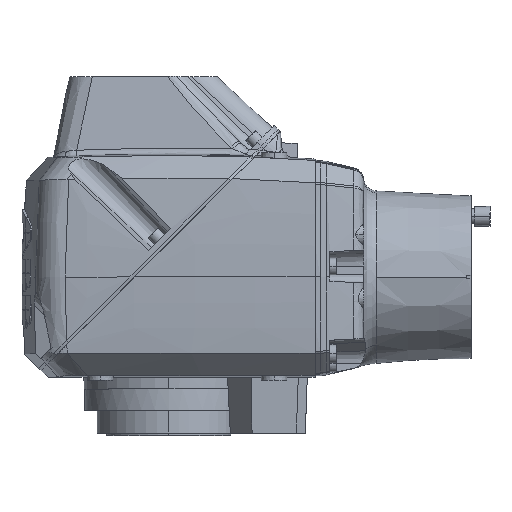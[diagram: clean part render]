
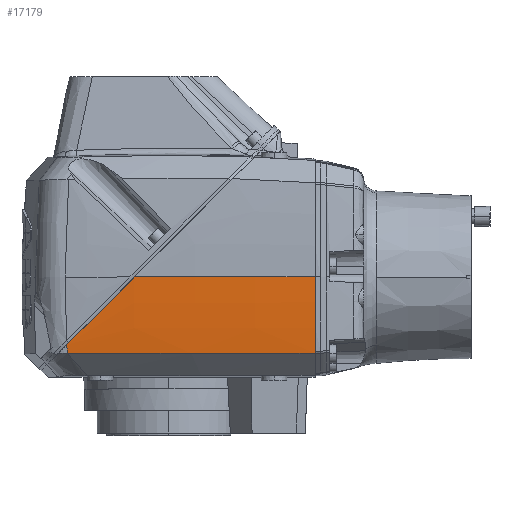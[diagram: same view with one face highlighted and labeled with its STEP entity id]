
A CAD part, top view. The second image highlights one B-rep face of the part: STEP entity #17179.
In plain terms, the highlighted toroidal (fillet/blend) face has major radius 2997.89 mm and minor radius 4000 mm.
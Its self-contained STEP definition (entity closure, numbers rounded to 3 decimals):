
#26 = CARTESIAN_POINT ( 'NONE',  ( 53.313, -64.16, 1374.702 ) ) ;
#259 = CARTESIAN_POINT ( 'NONE',  ( 85.423, -32.05, 1377.787 ) ) ;
#328 = DIRECTION ( 'NONE',  ( 0., 1., 0. ) ) ;
#898 = EDGE_CURVE ( 'NONE', #44550, #30493, #54128, .T. ) ;
#4884 = CARTESIAN_POINT ( 'NONE',  ( 53.606, -69.674, 1374.35 ) ) ;
#4905 = CARTESIAN_POINT ( 'NONE',  ( 85.376, -32.097, 1377.783 ) ) ;
#5264 = CARTESIAN_POINT ( 'NONE',  ( 260., 0., 380. ) ) ;
#5459 = DIRECTION ( 'NONE',  ( 0., 0., -1. ) ) ;
#5556 = CARTESIAN_POINT ( 'NONE',  ( 289., -72.255, 1379.399 ) ) ;
#6028 = AXIS2_PLACEMENT_3D ( 'NONE', #5264, #54973, #5459 ) ;
#9296 = CARTESIAN_POINT ( 'NONE',  ( 97.92, -19.553, 1378.641 ) ) ;
#9510 = CARTESIAN_POINT ( 'NONE',  ( 85.363, -32.11, 1377.782 ) ) ;
#9692 = CARTESIAN_POINT ( 'NONE',  ( 289., -72.255, 1379.399 ) ) ;
#10382 = ORIENTED_EDGE ( 'NONE', *, *, #25588, .F. ) ;
#10504 = CARTESIAN_POINT ( 'NONE',  ( 53.847, -72.43, 1374.162 ) ) ;
#13929 = CARTESIAN_POINT ( 'NONE',  ( 53.455, -66.917, 1374.532 ) ) ;
#13955 = CARTESIAN_POINT ( 'NONE',  ( 91.502, -25.971, 1378.226 ) ) ;
#14010 = CARTESIAN_POINT ( 'NONE',  ( 117.473, 0., 1379.573 ) ) ;
#14153 = CARTESIAN_POINT ( 'NONE',  ( 63.307, -54.166, 1375.865 ) ) ;
#14332 = CARTESIAN_POINT ( 'NONE',  ( 210.582, -72.255, 1379.391 ) ) ;
#16120 = B_SPLINE_CURVE_WITH_KNOTS ( 'NONE', 3,
 ( #27509, #13929, #4884, #36562 ),
 .UNSPECIFIED., .F., .F.,
 ( 4, 4 ),
 ( 0., 1. ),
 .UNSPECIFIED. ) ;
#17179 = ADVANCED_FACE ( 'NONE', ( #27855 ), #26423, .T. ) ;
#18521 = CARTESIAN_POINT ( 'NONE',  ( 87.475, -29.998, 1377.94 ) ) ;
#18901 = CARTESIAN_POINT ( 'NONE',  ( 93.004, -72.364, 1376.193 ) ) ;
#19686 = CARTESIAN_POINT ( 'NONE',  ( 53.765, -72.43, 1374.158 ) ) ;
#19821 = AXIS2_PLACEMENT_3D ( 'NONE', #45336, #44942, #45286 ) ;
#19891 = ORIENTED_EDGE ( 'NONE', *, *, #57516, .T. ) ;
#22263 = EDGE_CURVE ( 'NONE', #36438, #30493, #38177, .T. ) ;
#22792 = CARTESIAN_POINT ( 'NONE',  ( 117.473, 0., 1379.573 ) ) ;
#22997 = CARTESIAN_POINT ( 'NONE',  ( 85.884, -31.589, 1377.822 ) ) ;
#23623 = CARTESIAN_POINT ( 'NONE',  ( 53.765, -72.43, 1374.158 ) ) ;
#25588 = EDGE_CURVE ( 'NONE', #29964, #47544, #32602, .T. ) ;
#26423 = TOROIDAL_SURFACE ( 'NONE', #6028, -2997.887, 4000. ) ;
#26553 = EDGE_LOOP ( 'NONE', ( #39097, #47264, #19891, #10382, #56298, #48045 ) ) ;
#27509 = CARTESIAN_POINT ( 'NONE',  ( 53.313, -64.16, 1374.702 ) ) ;
#27528 = CARTESIAN_POINT ( 'NONE',  ( 85.489, -31.985, 1377.792 ) ) ;
#27600 = CARTESIAN_POINT ( 'NONE',  ( 260., 0., -2617.887 ) ) ;
#27855 = FACE_OUTER_BOUND ( 'NONE', #26553, .T. ) ;
#28259 = B_SPLINE_CURVE_WITH_KNOTS ( 'NONE', 3,
 ( #9692, #36761, #14332, #45725, #18901, #50240 ),
 .UNSPECIFIED., .F., .F.,
 ( 4, 2, 4 ),
 ( 0., 0.118, 0.235 ),
 .UNSPECIFIED. ) ;
#29964 = VERTEX_POINT ( 'NONE', #45324 ) ;
#30493 = VERTEX_POINT ( 'NONE', #34054 ) ;
#32026 = CARTESIAN_POINT ( 'NONE',  ( 85.39, -32.083, 1377.784 ) ) ;
#32099 = DIRECTION ( 'NONE',  ( 0., 0., 1. ) ) ;
#32374 = VERTEX_POINT ( 'NONE', #26 ) ;
#32602 = B_SPLINE_CURVE_WITH_KNOTS ( 'NONE', 3,
 ( #10504, #37550, #46515, #19686 ),
 .UNSPECIFIED., .F., .F.,
 ( 4, 4 ),
 ( 0., 0. ),
 .UNSPECIFIED. ) ;
#34054 = CARTESIAN_POINT ( 'NONE',  ( 289., 0., 1382.008 ) ) ;
#36386 = CARTESIAN_POINT ( 'NONE',  ( 105.949, -11.524, 1379.097 ) ) ;
#36438 = VERTEX_POINT ( 'NONE', #14010 ) ;
#36562 = CARTESIAN_POINT ( 'NONE',  ( 53.765, -72.43, 1374.158 ) ) ;
#36584 = CARTESIAN_POINT ( 'NONE',  ( 85.366, -32.107, 1377.783 ) ) ;
#36761 = CARTESIAN_POINT ( 'NONE',  ( 249.792, -72.246, 1379.685 ) ) ;
#37550 = CARTESIAN_POINT ( 'NONE',  ( 53.82, -72.43, 1374.161 ) ) ;
#38177 = CIRCLE ( 'NONE', #40547, 4000. ) ;
#39097 = ORIENTED_EDGE ( 'NONE', *, *, #22263, .F. ) ;
#40547 = AXIS2_PLACEMENT_3D ( 'NONE', #27600, #328, #32099 ) ;
#40891 = CARTESIAN_POINT ( 'NONE',  ( 95.312, -22.161, 1378.48 ) ) ;
#41078 = EDGE_CURVE ( 'NONE', #44550, #29964, #28259, .T. ) ;
#41097 = CARTESIAN_POINT ( 'NONE',  ( 73.988, -43.485, 1376.919 ) ) ;
#44550 = VERTEX_POINT ( 'NONE', #5556 ) ;
#44942 = DIRECTION ( 'NONE',  ( -1., 0., 0. ) ) ;
#45286 = DIRECTION ( 'NONE',  ( 0., 0., -1. ) ) ;
#45324 = CARTESIAN_POINT ( 'NONE',  ( 53.847, -72.43, 1374.162 ) ) ;
#45336 = CARTESIAN_POINT ( 'NONE',  ( 289., 0., 380. ) ) ;
#45361 = CARTESIAN_POINT ( 'NONE',  ( 89.623, -27.85, 1378.096 ) ) ;
#45554 = CARTESIAN_POINT ( 'NONE',  ( 53.313, -64.16, 1374.702 ) ) ;
#45725 = CARTESIAN_POINT ( 'NONE',  ( 132.183, -72.314, 1377.645 ) ) ;
#46515 = CARTESIAN_POINT ( 'NONE',  ( 53.793, -72.43, 1374.159 ) ) ;
#47264 = ORIENTED_EDGE ( 'NONE', *, *, #53032, .T. ) ;
#47544 = VERTEX_POINT ( 'NONE', #23623 ) ;
#48045 = ORIENTED_EDGE ( 'NONE', *, *, #898, .T. ) ;
#49661 = CARTESIAN_POINT ( 'NONE',  ( 111.575, -5.898, 1379.363 ) ) ;
#49868 = CARTESIAN_POINT ( 'NONE',  ( 86.412, -31.061, 1377.861 ) ) ;
#50240 = CARTESIAN_POINT ( 'NONE',  ( 53.847, -72.43, 1374.162 ) ) ;
#53032 = EDGE_CURVE ( 'NONE', #36438, #32374, #57786, .T. ) ;
#54128 = CIRCLE ( 'NONE', #19821, 1002.008 ) ;
#54428 = CARTESIAN_POINT ( 'NONE',  ( 85.62, -31.853, 1377.802 ) ) ;
#54973 = DIRECTION ( 'NONE',  ( 1., 0., 0. ) ) ;
#56298 = ORIENTED_EDGE ( 'NONE', *, *, #41078, .F. ) ;
#57516 = EDGE_CURVE ( 'NONE', #32374, #47544, #16120, .T. ) ;
#57786 = B_SPLINE_CURVE_WITH_KNOTS ( 'NONE', 3,
 ( #22792, #49661, #36386, #9296, #40891, #13955, #45361, #18521, #49868, #22997, #54428, #27528, #259, #32026, #4905, #36584, #9510, #41097, #14153, #45554 ),
 .UNSPECIFIED., .F., .F.,
 ( 4, 2, 2, 1, 1, 1, 1, 1, 1, 1, 1, 2, 2, 4 ),
 ( 0., 0.25, 0.375, 0.438, 0.469, 0.484, 0.492, 0.496, 0.498, 0.499, 0.5, 0.5, 0.5, 1. ),
 .UNSPECIFIED. ) ;
